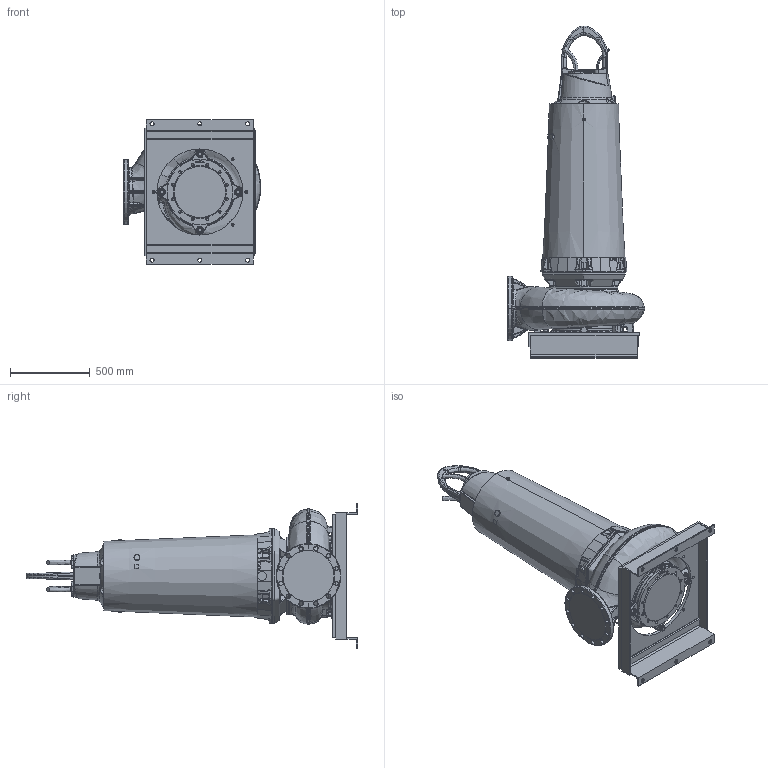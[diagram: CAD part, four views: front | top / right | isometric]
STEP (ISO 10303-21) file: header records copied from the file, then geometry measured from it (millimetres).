
FILE_DESCRIPTION (( 'STEP AP214' ), '1' );
FILE_NAME ('PE5_XFP255J-CB2_DRY_B_NG2.STEP', '2017-03-07T12:21:36', ( '' ), ( '' ), 'SwSTEP 2.0', 'SolidWorks 2017', '' );
FILE_SCHEMA (( 'AUTOMOTIVE_DESIGN' ));
Length unit declared in the file: millimetre
Products named in the file (1): PE5_XFP255J-CB2_DRY_B_NG2
Bounding box: 860.93 x 2080.47 x 905 mm (x, y, z)
Volume: 342388936.5 mm3; surface area: 5529249.1 mm2
Topology: 3 solids, 14 shells, 2813 faces, 7140 edges, 4331 vertices
Faces by surface type: bspline 843, plane 718, cylinder 657, cone 326, torus 230, sphere 39
Entity records: 192221 total; most frequent: CARTESIAN_POINT 101006, ORIENTED_EDGE 14116, DIRECTION 10572, EDGE_CURVE 7058, VERTEX_POINT 4331, AXIS2_PLACEMENT_3D 4208, EDGE_LOOP 2973, UNCERTAINTY_MEASURE_WITH_UNIT 2818
